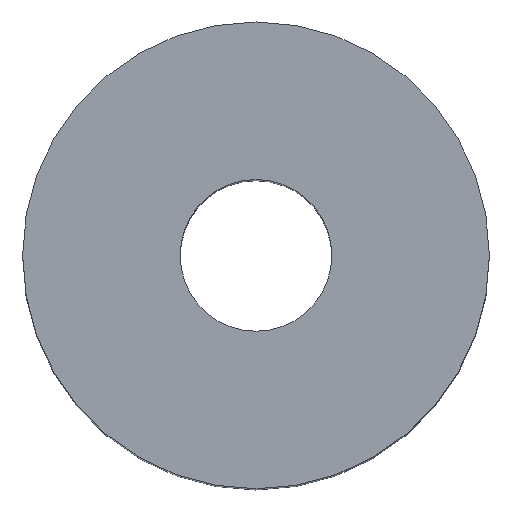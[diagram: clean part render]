
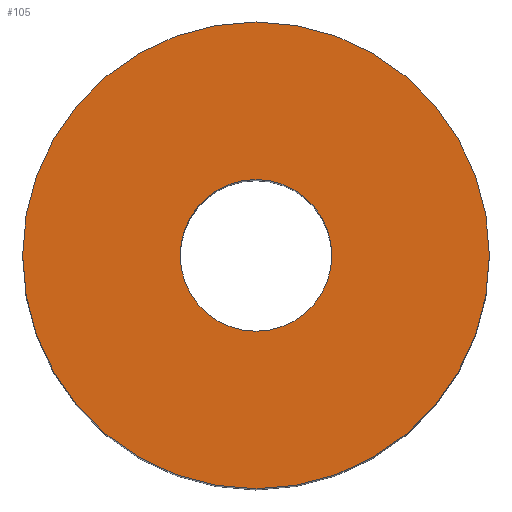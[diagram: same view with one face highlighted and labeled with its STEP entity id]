
A CAD part, top view. The second image highlights one B-rep face of the part: STEP entity #105.
In plain terms, the highlighted planar face has unit normal (0, 0, 1).
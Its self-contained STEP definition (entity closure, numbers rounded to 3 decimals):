
#21 = EDGE_CURVE('',#22,#22,#24,.T.);
#22 = VERTEX_POINT('',#23);
#23 = CARTESIAN_POINT('',(4.,0.,12.));
#24 = SURFACE_CURVE('',#25,(#30,#42),.PCURVE_S1.);
#25 = CIRCLE('',#26,4.);
#26 = AXIS2_PLACEMENT_3D('',#27,#28,#29);
#27 = CARTESIAN_POINT('',(0.,0.,12.));
#28 = DIRECTION('',(0.,0.,1.));
#29 = DIRECTION('',(1.,0.,-0.));
#30 = PCURVE('',#31,#36);
#31 = CYLINDRICAL_SURFACE('',#32,4.);
#32 = AXIS2_PLACEMENT_3D('',#33,#34,#35);
#33 = CARTESIAN_POINT('',(0.,0.,0.));
#34 = DIRECTION('',(0.,0.,1.));
#35 = DIRECTION('',(1.,0.,-0.));
#36 = DEFINITIONAL_REPRESENTATION('',(#37),#41);
#37 = LINE('',#38,#39);
#38 = CARTESIAN_POINT('',(0.,12.));
#39 = VECTOR('',#40,1.);
#40 = DIRECTION('',(1.,0.));
#41 = ( GEOMETRIC_REPRESENTATION_CONTEXT(2) 
PARAMETRIC_REPRESENTATION_CONTEXT() REPRESENTATION_CONTEXT('2D SPACE',''
  ) );
#42 = PCURVE('',#43,#48);
#43 = PLANE('',#44);
#44 = AXIS2_PLACEMENT_3D('',#45,#46,#47);
#45 = CARTESIAN_POINT('',(0.,0.,12.));
#46 = DIRECTION('',(0.,0.,1.));
#47 = DIRECTION('',(1.,0.,-0.));
#48 = DEFINITIONAL_REPRESENTATION('',(#49),#53);
#49 = CIRCLE('',#50,4.);
#50 = AXIS2_PLACEMENT_2D('',#51,#52);
#51 = CARTESIAN_POINT('',(0.,0.));
#52 = DIRECTION('',(1.,0.));
#53 = ( GEOMETRIC_REPRESENTATION_CONTEXT(2) 
PARAMETRIC_REPRESENTATION_CONTEXT() REPRESENTATION_CONTEXT('2D SPACE',''
  ) );
#105 = ADVANCED_FACE('',(#106,#109),#43,.T.);
#106 = FACE_BOUND('',#107,.T.);
#107 = EDGE_LOOP('',(#108));
#108 = ORIENTED_EDGE('',*,*,#21,.T.);
#109 = FACE_BOUND('',#110,.T.);
#110 = EDGE_LOOP('',(#111));
#111 = ORIENTED_EDGE('',*,*,#112,.F.);
#112 = EDGE_CURVE('',#113,#113,#115,.T.);
#113 = VERTEX_POINT('',#114);
#114 = CARTESIAN_POINT('',(1.3,0.,12.));
#115 = SURFACE_CURVE('',#116,(#121,#128),.PCURVE_S1.);
#116 = CIRCLE('',#117,1.3);
#117 = AXIS2_PLACEMENT_3D('',#118,#119,#120);
#118 = CARTESIAN_POINT('',(0.,0.,12.));
#119 = DIRECTION('',(0.,0.,1.));
#120 = DIRECTION('',(1.,0.,-0.));
#121 = PCURVE('',#43,#122);
#122 = DEFINITIONAL_REPRESENTATION('',(#123),#127);
#123 = CIRCLE('',#124,1.3);
#124 = AXIS2_PLACEMENT_2D('',#125,#126);
#125 = CARTESIAN_POINT('',(0.,0.));
#126 = DIRECTION('',(1.,0.));
#127 = ( GEOMETRIC_REPRESENTATION_CONTEXT(2) 
PARAMETRIC_REPRESENTATION_CONTEXT() REPRESENTATION_CONTEXT('2D SPACE',''
  ) );
#128 = PCURVE('',#129,#134);
#129 = CYLINDRICAL_SURFACE('',#130,1.3);
#130 = AXIS2_PLACEMENT_3D('',#131,#132,#133);
#131 = CARTESIAN_POINT('',(0.,0.,-1.));
#132 = DIRECTION('',(0.,0.,1.));
#133 = DIRECTION('',(1.,0.,-0.));
#134 = DEFINITIONAL_REPRESENTATION('',(#135),#139);
#135 = LINE('',#136,#137);
#136 = CARTESIAN_POINT('',(0.,13.));
#137 = VECTOR('',#138,1.);
#138 = DIRECTION('',(1.,0.));
#139 = ( GEOMETRIC_REPRESENTATION_CONTEXT(2) 
PARAMETRIC_REPRESENTATION_CONTEXT() REPRESENTATION_CONTEXT('2D SPACE',''
  ) );
